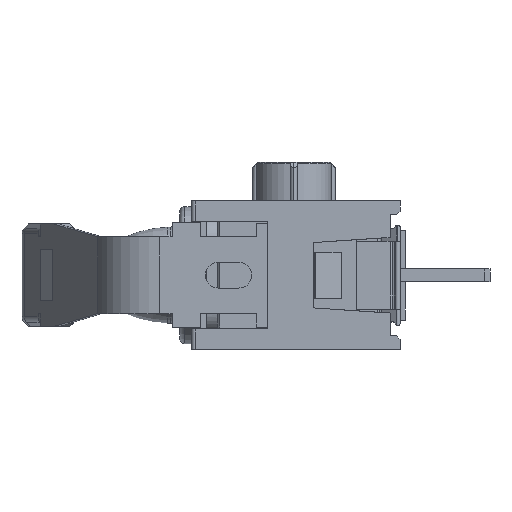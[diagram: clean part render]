
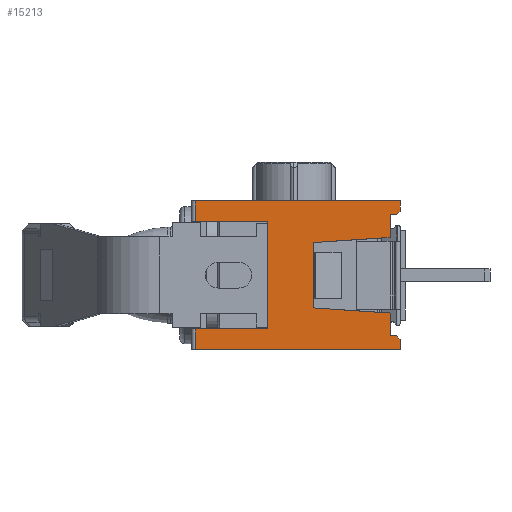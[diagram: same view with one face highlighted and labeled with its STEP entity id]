
A CAD part, left-side view. The second image highlights one B-rep face of the part: STEP entity #15213.
In plain terms, the highlighted planar face has unit normal (-1, 0, 0).
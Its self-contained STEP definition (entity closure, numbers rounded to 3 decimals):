
#454 = DIRECTION ( 'NONE',  ( 0., 1., 0. ) ) ;
#455 = VECTOR ( 'NONE', #454, 1000. ) ;
#456 = CARTESIAN_POINT ( 'NONE',  ( -6.5, 7.77, -2.353 ) ) ;
#457 = LINE ( 'NONE', #456, #455 ) ;
#458 = CARTESIAN_POINT ( 'NONE',  ( -6.5, 0.6, -2.352 ) ) ;
#1095 = CARTESIAN_POINT ( 'NONE',  ( -6.5, 8.205, 2.9 ) ) ;
#1103 = CARTESIAN_POINT ( 'NONE',  ( -6.5, 0.2, 2.9 ) ) ;
#1104 = DIRECTION ( 'NONE',  ( 0., -1., 0. ) ) ;
#1105 = VECTOR ( 'NONE', #1104, 1000. ) ;
#1106 = CARTESIAN_POINT ( 'NONE',  ( -6.5, 8.355, 2.9 ) ) ;
#1107 = LINE ( 'NONE', #1106, #1105 ) ;
#1435 = CARTESIAN_POINT ( 'NONE',  ( -6.5, 0.35, -2.352 ) ) ;
#3680 = CARTESIAN_POINT ( 'NONE',  ( -6.5, 0.2, 2.502 ) ) ;
#3684 = DIRECTION ( 'NONE',  ( 0., 0., 1. ) ) ;
#3685 = VECTOR ( 'NONE', #3684, 1000. ) ;
#3686 = CARTESIAN_POINT ( 'NONE',  ( -6.5, 0.2, 2.502 ) ) ;
#3687 = LINE ( 'NONE', #3686, #3685 ) ;
#3714 = DIRECTION ( 'NONE',  ( 0., -0.707, 0.707 ) ) ;
#3715 = VECTOR ( 'NONE', #3714, 1000. ) ;
#3716 = CARTESIAN_POINT ( 'NONE',  ( -6.5, 0.2, 2.502 ) ) ;
#3717 = LINE ( 'NONE', #3716, #3715 ) ;
#5299 = CARTESIAN_POINT ( 'NONE',  ( -6.5, 8.205, -2.095 ) ) ;
#5368 = DIRECTION ( 'NONE',  ( 0., 0., -1. ) ) ;
#5369 = VECTOR ( 'NONE', #5368, 1000. ) ;
#5371 = CARTESIAN_POINT ( 'NONE',  ( -6.5, 8.205, 2.9 ) ) ;
#5372 = LINE ( 'NONE', #5371, #5369 ) ;
#5627 = CARTESIAN_POINT ( 'NONE',  ( -6.5, 3.6, -1.275 ) ) ;
#5628 = DIRECTION ( 'NONE',  ( 0., 0.998, 0.067 ) ) ;
#5629 = VECTOR ( 'NONE', #5628, 1000. ) ;
#5630 = CARTESIAN_POINT ( 'NONE',  ( -6.5, 0.6, -1.475 ) ) ;
#5631 = LINE ( 'NONE', #5630, #5629 ) ;
#5687 = CARTESIAN_POINT ( 'NONE',  ( -6.5, 0.6, -1.475 ) ) ;
#5688 = DIRECTION ( 'NONE',  ( 0., 0., 1. ) ) ;
#5689 = VECTOR ( 'NONE', #5688, 1000. ) ;
#5690 = CARTESIAN_POINT ( 'NONE',  ( -6.5, 0.6, -2.352 ) ) ;
#5691 = LINE ( 'NONE', #5690, #5689 ) ;
#5863 = DIRECTION ( 'NONE',  ( 0., 0., 1. ) ) ;
#5864 = VECTOR ( 'NONE', #5863, 1000. ) ;
#5865 = CARTESIAN_POINT ( 'NONE',  ( -6.5, 0.6, 1.475 ) ) ;
#5866 = LINE ( 'NONE', #5865, #5864 ) ;
#5867 = CARTESIAN_POINT ( 'NONE',  ( -6.5, 0.6, 1.475 ) ) ;
#5868 = DIRECTION ( 'NONE',  ( 0., -0.998, 0.067 ) ) ;
#5869 = VECTOR ( 'NONE', #5868, 1000. ) ;
#5870 = CARTESIAN_POINT ( 'NONE',  ( -6.5, 3.6, 1.275 ) ) ;
#5871 = LINE ( 'NONE', #5870, #5869 ) ;
#5888 = CARTESIAN_POINT ( 'NONE',  ( -6.5, 3.6, 1.275 ) ) ;
#5889 = DIRECTION ( 'NONE',  ( 0., 0., 1. ) ) ;
#5890 = VECTOR ( 'NONE', #5889, 1000. ) ;
#5891 = CARTESIAN_POINT ( 'NONE',  ( -6.5, 3.6, -2.352 ) ) ;
#5892 = LINE ( 'NONE', #5891, #5890 ) ;
#6051 = CARTESIAN_POINT ( 'NONE',  ( -6.5, 8.205, 2.095 ) ) ;
#6052 = DIRECTION ( 'NONE',  ( 0., 0., -1. ) ) ;
#6053 = VECTOR ( 'NONE', #6052, 1000. ) ;
#6054 = CARTESIAN_POINT ( 'NONE',  ( -6.5, 8.205, 2.9 ) ) ;
#6055 = LINE ( 'NONE', #6054, #6053 ) ;
#6155 = DIRECTION ( 'NONE',  ( 0., 0., -1. ) ) ;
#6156 = DIRECTION ( 'NONE',  ( 1., 0., 0. ) ) ;
#6157 = CARTESIAN_POINT ( 'NONE',  ( -6.5, 8.355, 2.9 ) ) ;
#6158 = AXIS2_PLACEMENT_3D ( 'NONE', #6157, #6156, #6155 ) ;
#6160 = PLANE ( 'NONE',  #6158 ) ;
#6175 = FACE_OUTER_BOUND ( 'NONE', #15258, .T. ) ;
#6253 = CARTESIAN_POINT ( 'NONE',  ( -6.5, 5.39, -2.095 ) ) ;
#6265 = VECTOR ( 'NONE', #6306, 1000. ) ;
#6278 = CARTESIAN_POINT ( 'NONE',  ( -6.5, 8.355, 2.095 ) ) ;
#6288 = CARTESIAN_POINT ( 'NONE',  ( -6.5, 5.39, -2.095 ) ) ;
#6291 = VECTOR ( 'NONE', #6350, 1000. ) ;
#6292 = DIRECTION ( 'NONE',  ( 0., -1., 0. ) ) ;
#6299 = CARTESIAN_POINT ( 'NONE',  ( -6.5, 8.355, -2.095 ) ) ;
#6302 = LINE ( 'NONE', #6299, #6351 ) ;
#6306 = DIRECTION ( 'NONE',  ( 0., 0., -1. ) ) ;
#6320 = LINE ( 'NONE', #6278, #6291 ) ;
#6321 = LINE ( 'NONE', #6288, #6265 ) ;
#6349 = CARTESIAN_POINT ( 'NONE',  ( -6.5, 5.39, 2.095 ) ) ;
#6350 = DIRECTION ( 'NONE',  ( 0., 1., 0. ) ) ;
#6351 = VECTOR ( 'NONE', #6292, 1000. ) ;
#9643 = VERTEX_POINT ( 'NONE', #11874 ) ;
#9645 = EDGE_CURVE ( 'NONE', #9646, #9643, #11895, .T. ) ;
#9646 = VERTEX_POINT ( 'NONE', #11871 ) ;
#9866 = VERTEX_POINT ( 'NONE', #12238 ) ;
#9871 = EDGE_CURVE ( 'NONE', #9643, #9866, #12266, .T. ) ;
#9926 = EDGE_CURVE ( 'NONE', #9866, #10471, #12410, .T. ) ;
#10013 = VERTEX_POINT ( 'NONE', #458 ) ;
#10015 = EDGE_CURVE ( 'NONE', #10471, #10013, #457, .T. ) ;
#10386 = VERTEX_POINT ( 'NONE', #1095 ) ;
#10389 = EDGE_CURVE ( 'NONE', #10386, #10392, #1107, .T. ) ;
#10392 = VERTEX_POINT ( 'NONE', #1103 ) ;
#10471 = VERTEX_POINT ( 'NONE', #1435 ) ;
#10611 = VERTEX_POINT ( 'NONE', #3680 ) ;
#10613 = EDGE_CURVE ( 'NONE', #20670, #10611, #3717, .T. ) ;
#10621 = EDGE_CURVE ( 'NONE', #10611, #10392, #3687, .T. ) ;
#11871 = CARTESIAN_POINT ( 'NONE',  ( -6.5, 8.205, -2.9 ) ) ;
#11874 = CARTESIAN_POINT ( 'NONE',  ( -6.5, 0.2, -2.9 ) ) ;
#11892 = DIRECTION ( 'NONE',  ( 0., -1., 0. ) ) ;
#11893 = VECTOR ( 'NONE', #11892, 1000. ) ;
#11894 = CARTESIAN_POINT ( 'NONE',  ( -6.5, 8.355, -2.9 ) ) ;
#11895 = LINE ( 'NONE', #11894, #11893 ) ;
#12238 = CARTESIAN_POINT ( 'NONE',  ( -6.5, 0.2, -2.502 ) ) ;
#12256 = DIRECTION ( 'NONE',  ( 0., 0., 1. ) ) ;
#12264 = VECTOR ( 'NONE', #12256, 1000. ) ;
#12265 = CARTESIAN_POINT ( 'NONE',  ( -6.5, 0.2, -2.502 ) ) ;
#12266 = LINE ( 'NONE', #12265, #12264 ) ;
#12406 = DIRECTION ( 'NONE',  ( 0., 0.707, 0.707 ) ) ;
#12407 = VECTOR ( 'NONE', #12406, 1000. ) ;
#12408 = CARTESIAN_POINT ( 'NONE',  ( -6.5, 0.2, -2.502 ) ) ;
#12410 = LINE ( 'NONE', #12408, #12407 ) ;
#14974 = VERTEX_POINT ( 'NONE', #5299 ) ;
#14977 = ORIENTED_EDGE ( 'NONE', *, *, #14979, .T. ) ;
#14979 = EDGE_CURVE ( 'NONE', #14974, #9646, #5372, .T. ) ;
#15076 = ORIENTED_EDGE ( 'NONE', *, *, #9645, .T. ) ;
#15077 = ORIENTED_EDGE ( 'NONE', *, *, #9871, .T. ) ;
#15080 = ORIENTED_EDGE ( 'NONE', *, *, #9926, .T. ) ;
#15082 = ORIENTED_EDGE ( 'NONE', *, *, #10015, .T. ) ;
#15085 = ORIENTED_EDGE ( 'NONE', *, *, #15086, .T. ) ;
#15086 = EDGE_CURVE ( 'NONE', #10013, #15088, #5691, .T. ) ;
#15088 = VERTEX_POINT ( 'NONE', #5687 ) ;
#15090 = ORIENTED_EDGE ( 'NONE', *, *, #15091, .T. ) ;
#15091 = EDGE_CURVE ( 'NONE', #15088, #15093, #5631, .T. ) ;
#15093 = VERTEX_POINT ( 'NONE', #5627 ) ;
#15165 = ORIENTED_EDGE ( 'NONE', *, *, #15167, .T. ) ;
#15167 = EDGE_CURVE ( 'NONE', #15093, #15168, #5892, .T. ) ;
#15168 = VERTEX_POINT ( 'NONE', #5888 ) ;
#15171 = ORIENTED_EDGE ( 'NONE', *, *, #15173, .T. ) ;
#15173 = EDGE_CURVE ( 'NONE', #15168, #15175, #5871, .T. ) ;
#15175 = VERTEX_POINT ( 'NONE', #5867 ) ;
#15177 = ORIENTED_EDGE ( 'NONE', *, *, #15178, .T. ) ;
#15178 = EDGE_CURVE ( 'NONE', #15175, #20669, #5866, .T. ) ;
#15180 = ORIENTED_EDGE ( 'NONE', *, *, #20668, .T. ) ;
#15183 = ORIENTED_EDGE ( 'NONE', *, *, #10613, .T. ) ;
#15185 = ORIENTED_EDGE ( 'NONE', *, *, #10621, .T. ) ;
#15213 = ADVANCED_FACE ( 'NONE', ( #6175 ), #6160, .F. ) ;
#15240 = ORIENTED_EDGE ( 'NONE', *, *, #15242, .T. ) ;
#15242 = EDGE_CURVE ( 'NONE', #10386, #15243, #6055, .T. ) ;
#15243 = VERTEX_POINT ( 'NONE', #6051 ) ;
#15245 = ORIENTED_EDGE ( 'NONE', *, *, #15247, .F. ) ;
#15247 = EDGE_CURVE ( 'NONE', #15248, #15243, #6320, .T. ) ;
#15248 = VERTEX_POINT ( 'NONE', #6349 ) ;
#15250 = ORIENTED_EDGE ( 'NONE', *, *, #15252, .T. ) ;
#15252 = EDGE_CURVE ( 'NONE', #15248, #15253, #6321, .T. ) ;
#15253 = VERTEX_POINT ( 'NONE', #6253 ) ;
#15255 = ORIENTED_EDGE ( 'NONE', *, *, #15257, .F. ) ;
#15257 = EDGE_CURVE ( 'NONE', #14974, #15253, #6302, .T. ) ;
#15258 = EDGE_LOOP ( 'NONE', ( #15260, #15240, #15245, #15250, #15255, #14977, #15076, #15077, #15080, #15082, #15085, #15090, #15165, #15171, #15177, #15180, #15183, #15185 ) ) ;
#15260 = ORIENTED_EDGE ( 'NONE', *, *, #10389, .F. ) ;
#19856 = CARTESIAN_POINT ( 'NONE',  ( -6.5, 0.35, 2.352 ) ) ;
#19857 = CARTESIAN_POINT ( 'NONE',  ( -6.5, 0.6, 2.352 ) ) ;
#19858 = DIRECTION ( 'NONE',  ( 0., -1., 0. ) ) ;
#19859 = VECTOR ( 'NONE', #19858, 1000. ) ;
#19860 = CARTESIAN_POINT ( 'NONE',  ( -6.5, 7.77, 2.353 ) ) ;
#19861 = LINE ( 'NONE', #19860, #19859 ) ;
#20668 = EDGE_CURVE ( 'NONE', #20669, #20670, #19861, .T. ) ;
#20669 = VERTEX_POINT ( 'NONE', #19857 ) ;
#20670 = VERTEX_POINT ( 'NONE', #19856 ) ;
